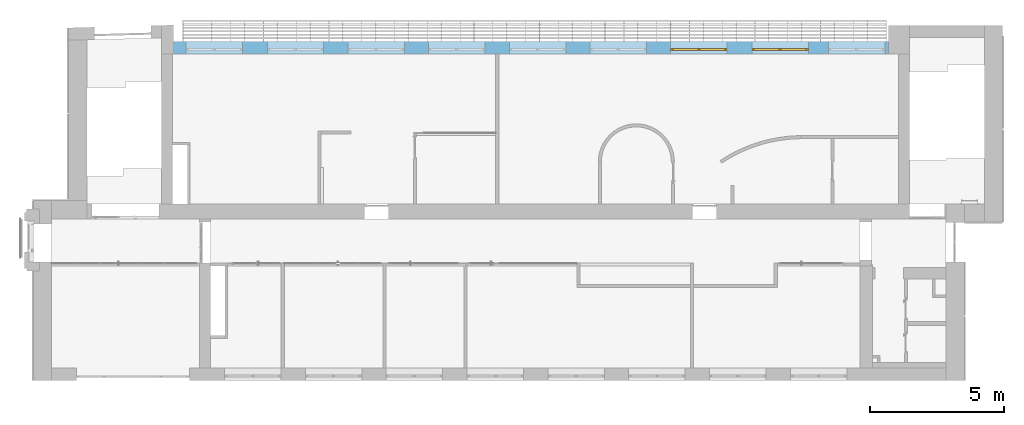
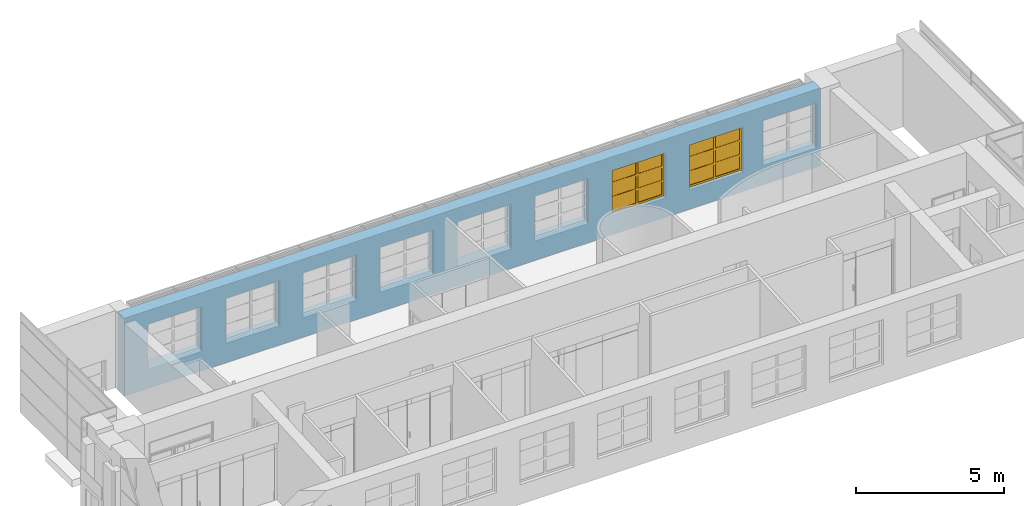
# One storey, part 37 of 46: 2 windows, 9 openings, plus 1 element that does not belong to this part.
"""IFC2X3 building model written with IfcOpenShell, lengths in millimetres."""

from ifc_helpers import new_model, entity, si_unit, converted_unit, derived_unit, direction, frame, frame_2d, origin, origin_2d_with_axis, place, context, subcontext, project, spatial, rectangle, extrude, face_set, surface_model, source, transform, mapped, material, material_list, layer, layer_set, layer_usage, type_object, type_shapes, element, fill, save


model = new_model("IFC2X3")

# Units and contexts
model_context = context("Model", 3, precision=0.01, world=origin(), true_north=direction((6.12303176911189e-17, 1.0)))
body_context = subcontext(model_context, "Body", "Model", "MODEL_VIEW")
ifc_project = project(units=[si_unit("LENGTHUNIT", "METRE", prefix="MILLI"), si_unit("AREAUNIT", "SQUARE_METRE"), si_unit("VOLUMEUNIT", "CUBIC_METRE"), converted_unit("PLANEANGLEUNIT", "DEGREE", entity("IfcRatioMeasure", 0.0174532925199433), si_unit("PLANEANGLEUNIT", "RADIAN"), dimensions=[0, 0, 0, 0, 0, 0, 0]), si_unit("MASSUNIT", "GRAM", prefix="KILO"), derived_unit("MASSDENSITYUNIT", [(si_unit("MASSUNIT", "GRAM", prefix="KILO"), 1), (si_unit("LENGTHUNIT", "METRE"), -3)]), si_unit("TIMEUNIT", "SECOND"), si_unit("FREQUENCYUNIT", "HERTZ"), si_unit("THERMODYNAMICTEMPERATUREUNIT", "DEGREE_CELSIUS"), derived_unit("THERMALTRANSMITTANCEUNIT", [(si_unit("MASSUNIT", "GRAM", prefix="KILO"), 1), (si_unit("THERMODYNAMICTEMPERATUREUNIT", "KELVIN"), -1), (si_unit("TIMEUNIT", "SECOND"), -3)]), derived_unit("VOLUMETRICFLOWRATEUNIT", [(si_unit("LENGTHUNIT", "METRE"), 3), (si_unit("TIMEUNIT", "SECOND"), -1)]), si_unit("ELECTRICCURRENTUNIT", "AMPERE"), si_unit("ELECTRICVOLTAGEUNIT", "VOLT"), si_unit("POWERUNIT", "WATT"), si_unit("FORCEUNIT", "NEWTON", prefix="KILO"), si_unit("ILLUMINANCEUNIT", "LUX"), si_unit("LUMINOUSFLUXUNIT", "LUMEN"), si_unit("LUMINOUSINTENSITYUNIT", "CANDELA"), derived_unit("USERDEFINED", [(si_unit("MASSUNIT", "GRAM", prefix="KILO"), -1), (si_unit("LENGTHUNIT", "METRE"), -2), (si_unit("TIMEUNIT", "SECOND"), 3), (si_unit("LUMINOUSFLUXUNIT", "LUMEN"), 1)]), derived_unit("LINEARVELOCITYUNIT", [(si_unit("LENGTHUNIT", "METRE"), 1), (si_unit("TIMEUNIT", "SECOND"), -1)]), si_unit("PRESSUREUNIT", "PASCAL"), derived_unit("USERDEFINED", [(si_unit("LENGTHUNIT", "METRE"), -2), (si_unit("MASSUNIT", "GRAM", prefix="KILO"), 1), (si_unit("TIMEUNIT", "SECOND"), -2)])], contexts=[model_context])

# Site, building, storey
site_placement = place(None, frame((-151.875543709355, 2715.0, 0.0)))
site = spatial("IfcSite", under=ifc_project, at=site_placement, Name="Surface", CompositionType="ELEMENT")
building_placement = place(site_placement, origin())
building = spatial("IfcBuilding", under=site, at=building_placement, CompositionType="ELEMENT")
storey_placement = place(building_placement, frame((0.0, 0.0, 10060.0)))
storey = spatial("IfcBuildingStorey", under=building, at=storey_placement, Name="4 korrus", CompositionType="ELEMENT", Elevation=10060.0000000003)

# Wall, openings, windows
ifc_material_1 = material(Name="Brick, Common")
ifc_layer_1 = layer(ifc_material_1, 440.0)
ifc_material_2 = material(Name="__Kips GN13_tava")
ifc_layer_2 = layer(ifc_material_2, 20.0)
ifc_layer_set = layer_set([ifc_layer_1, ifc_layer_2], Name="Basic Wall:VS-1")
ifc_layer_usage = layer_usage(ifc_layer_set, "AXIS2", "POSITIVE", -230.0)
wall_type = type_object("IfcWallType", Name="Basic Wall:VS-1", PredefinedType="STANDARD", material=ifc_layer_set)
wall_placement = place(storey_placement, frame((31602.6162682, 12380.0, 0.0), z_axis=(0.0, 0.0, 1.0), x_axis=(-1.0, 0.0, 0.0)))
wall = element("IfcWallStandardCase", 1, at=wall_placement, inside=storey, type_object=wall_type, material=ifc_layer_usage, Name="SEIN - 005", ObjectType="Basic Wall:VS-1", context=body_context, shape_type="SweptSolid", body=[
    extrude(rectangle(XDim=27061.7433388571, YDim=459.999999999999, at=frame_2d((13530.8716694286, 0.0), x_axis=(-1.0, 0.0))), origin(), (0.0, 0.0, 1.0), 3209.74134984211),
])
opening_1_placement = place(wall_placement, frame((31602.6162682, 12380.0, 0.0), z_axis=(0.0, 0.0, 1.0), x_axis=(-1.0, 0.0, 0.0)))
element("IfcOpeningElement", 2, at=opening_1_placement, cuts=wall, Name="SEIN - 005", ObjectType="Opening", context=body_context, shape_type="SweptSolid", body=[
    extrude(rectangle(XDim=1850.0, YDim=2100.0, at=frame_2d((0.0, -5.6843418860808e-13), x_axis=(1.0, 0.0))), frame((6512.84935535, 13077.9, 1725.0), z_axis=(0.0, -1.0, 0.0), x_axis=(0.0, 0.0, 1.0)), (0.0, 0.0, 1.0), 1393.8),
])
opening_2_placement = place(wall_placement, frame((31602.6162682, 12380.0, 0.0), z_axis=(0.0, 0.0, 1.0), x_axis=(-1.0, 0.0, 0.0)))
element("IfcOpeningElement", 3, at=opening_2_placement, cuts=wall, Name="SEIN - 005", ObjectType="Opening", context=body_context, shape_type="SweptSolid", body=[
    extrude(rectangle(XDim=1850.0, YDim=2100.0, at=frame_2d((0.0, -1.02318153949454e-12), x_axis=(1.0, 0.0))), frame((9532.84935535, 13077.9, 1725.0), z_axis=(0.0, -1.0, 0.0), x_axis=(0.0, 0.0, 1.0)), (0.0, 0.0, 1.0), 1393.8),
])
opening_3_placement = place(wall_placement, frame((31602.6162682, 12380.0, 0.0), z_axis=(0.0, 0.0, 1.0), x_axis=(-1.0, 0.0, 0.0)))
element("IfcOpeningElement", 4, at=opening_3_placement, cuts=wall, Name="SEIN - 005", ObjectType="Opening", context=body_context, shape_type="SweptSolid", body=[
    extrude(rectangle(XDim=1850.0, YDim=2100.0, at=origin_2d_with_axis()), frame((12532.84935535, 13077.9, 1725.0), z_axis=(0.0, -1.0, 0.0), x_axis=(0.0, 0.0, 1.0)), (0.0, 0.0, 1.0), 1393.8),
])
opening_4_placement = place(wall_placement, frame((31602.6162682, 12380.0, 0.0), z_axis=(0.0, 0.0, 1.0), x_axis=(-1.0, 0.0, 0.0)))
element("IfcOpeningElement", 5, at=opening_4_placement, cuts=wall, Name="SEIN - 005", ObjectType="Opening", context=body_context, shape_type="SweptSolid", body=[
    extrude(rectangle(XDim=1850.0, YDim=2100.0, at=origin_2d_with_axis()), frame((15532.84935531, 13077.9, 1725.0), z_axis=(0.0, -1.0, 0.0), x_axis=(0.0, 0.0, 1.0)), (0.0, 0.0, 1.0), 1393.8),
])
opening_5_placement = place(wall_placement, frame((31602.6162682, 12380.0, 0.0), z_axis=(0.0, 0.0, 1.0), x_axis=(-1.0, 0.0, 0.0)))
element("IfcOpeningElement", 6, at=opening_5_placement, cuts=wall, Name="SEIN - 005", ObjectType="Opening", context=body_context, shape_type="SweptSolid", body=[
    extrude(rectangle(XDim=1850.0, YDim=2100.0, at=origin_2d_with_axis()), frame((18542.84935531, 13077.9, 1725.0), z_axis=(0.0, -1.0, 0.0), x_axis=(0.0, 0.0, 1.0)), (0.0, 0.0, 1.0), 1393.8),
])
opening_6_placement = place(wall_placement, frame((31602.6162682, 12380.0, 0.0), z_axis=(0.0, 0.0, 1.0), x_axis=(-1.0, 0.0, 0.0)))
element("IfcOpeningElement", 7, at=opening_6_placement, cuts=wall, Name="SEIN - 005", ObjectType="Opening", context=body_context, shape_type="SweptSolid", body=[
    extrude(rectangle(XDim=1850.0, YDim=2100.0, at=origin_2d_with_axis()), frame((21543.05309771, 13077.9, 1725.0), z_axis=(0.0, -1.0, 0.0), x_axis=(0.0, 0.0, 1.0)), (0.0, 0.0, 1.0), 1393.8),
])
opening_7_placement = place(wall_placement, frame((31602.6162682, 12380.0, 0.0), z_axis=(0.0, 0.0, 1.0), x_axis=(-1.0, 0.0, 0.0)))
opening_7 = element("IfcOpeningElement", 8, at=opening_7_placement, cuts=wall, Name="SEIN - 005", ObjectType="Opening", context=body_context, shape_type="SweptSolid", body=[
    extrude(rectangle(XDim=1850.0, YDim=2100.0, at=origin_2d_with_axis()), frame((24543.05309771, 13077.9, 1725.0), z_axis=(0.0, -1.0, 0.0), x_axis=(0.0, 0.0, 1.0)), (0.0, 0.0, 1.0), 1393.8),
])
opening_8_placement = place(wall_placement, frame((31602.6162682, 12380.0, 0.0), z_axis=(0.0, 0.0, 1.0), x_axis=(-1.0, 0.0, 0.0)))
opening_8 = element("IfcOpeningElement", 9, at=opening_8_placement, cuts=wall, Name="SEIN - 005", ObjectType="Opening", context=body_context, shape_type="SweptSolid", body=[
    extrude(rectangle(XDim=1850.0, YDim=2100.0, at=frame_2d((0.0, 4.32009983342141e-12), x_axis=(1.0, 0.0))), frame((27563.05309771, 13077.9, 1725.0), z_axis=(0.0, -1.0, 0.0), x_axis=(0.0, 0.0, 1.0)), (0.0, 0.0, 1.0), 1393.8),
])
opening_9_placement = place(wall_placement, frame((31602.6162682, 12380.0, 0.0), z_axis=(0.0, 0.0, 1.0), x_axis=(-1.0, 0.0, 0.0)))
element("IfcOpeningElement", 10, at=opening_9_placement, cuts=wall, Name="SEIN - 005", ObjectType="Opening", context=body_context, shape_type="SweptSolid", body=[
    extrude(rectangle(XDim=1850.0, YDim=2100.0, at=origin_2d_with_axis()), frame((30412.57293081, 13077.9, 1725.0), z_axis=(0.0, -1.0, 0.0), x_axis=(0.0, 0.0, 1.0)), (0.0, 0.0, 1.0), 1393.8),
])
ifc_material_3 = material(Name="Paint - Titanium White")
ifc_material_4 = material(Name="Paint - Dark Gray")
ifc_material_5 = material(Name="Glass - Clear Fast")
ifc_material_list_1 = material_list([ifc_material_3, ifc_material_4, ifc_material_5])
ifc_material_list_2 = material_list([ifc_material_3, ifc_material_4, ifc_material_5])
window_style = type_object("IfcWindowStyle", Name="Aken_1850x2100", ConstructionType="NOTDEFINED", OperationType="DOUBLE_PANEL_VERTICAL", ParameterTakesPrecedence=False, Sizeable=False, material=ifc_material_list_2)
shared_shape = source(origin(), body_context, "Body", "SurfaceModel", [
    surface_model("IfcFaceBasedSurfaceModel", [(80.0, -665.9, 1770.0), (80.0, -620.9, 1770.0), (0.0, -620.9, 1770.0), (0.0, -665.9, 1770.0), (80.0, -665.9, 80.0), (80.0, -620.9, 80.0), (80.0, -620.9, 1770.0), (80.0, -665.9, 1770.0), (80.0, -620.9, 1770.0), (80.0, -620.9, 80.0), (0.0, -620.9, 80.0), (0.0, -620.9, 1770.0), (0.0, -665.9, 1770.0), (0.0, -620.9, 1770.0), (0.0, -620.9, 80.0), (0.0, -665.9, 80.0), (80.0, -665.9, 1770.0), (0.0, -665.9, 1770.0), (0.0, -665.9, 80.0), (80.0, -665.9, 80.0), (0.0, -665.9, 80.0), (0.0, -620.9, 80.0), (80.0, -620.9, 80.0), (80.0, -665.9, 80.0), (2020.0, -665.9, 80.0), (2020.0, -620.9, 80.0), (2100.0, -620.9, 80.0), (2100.0, -665.9, 80.0), (2020.0, -665.9, 1770.0), (2020.0, -620.9, 1770.0), (2020.0, -620.9, 80.0), (2020.0, -665.9, 80.0), (2020.0, -620.9, 80.0), (2020.0, -620.9, 1770.0), (2100.0, -620.9, 1770.0), (2100.0, -620.9, 80.0), (2100.0, -665.9, 80.0), (2100.0, -620.9, 80.0), (2100.0, -620.9, 1770.0), (2100.0, -665.9, 1770.0), (2020.0, -665.9, 80.0), (2100.0, -665.9, 80.0), (2100.0, -665.9, 1770.0), (2020.0, -665.9, 1770.0), (2100.0, -665.9, 1770.0), (2100.0, -620.9, 1770.0), (2020.0, -620.9, 1770.0), (2020.0, -665.9, 1770.0), (1010.0, -665.9, 80.0), (1010.0, -620.9, 80.0), (1090.0, -620.9, 80.0), (1090.0, -665.9, 80.0), (1010.0, -665.9, 1770.0), (1010.0, -620.9, 1770.0), (1010.0, -620.9, 80.0), (1010.0, -665.9, 80.0), (1010.0, -620.9, 80.0), (1010.0, -620.9, 1770.0), (1090.0, -620.9, 1770.0), (1090.0, -620.9, 80.0), (1090.0, -665.9, 80.0), (1090.0, -620.9, 80.0), (1090.0, -620.9, 1770.0), (1090.0, -665.9, 1770.0), (1010.0, -665.9, 80.0), (1090.0, -665.9, 80.0), (1090.0, -665.9, 1770.0), (1010.0, -665.9, 1770.0), (1090.0, -665.9, 1770.0), (1090.0, -620.9, 1770.0), (1010.0, -620.9, 1770.0), (1010.0, -665.9, 1770.0), (80.0, -665.9, 80.0), (80.0, -620.9, 80.0), (0.0, -620.9, 80.0), (0.0, -665.9, 80.0), (1010.0, -665.9, 80.0), (1010.0, -620.9, 80.0), (80.0, -620.9, 80.0), (80.0, -665.9, 80.0), (80.0, -620.9, 80.0), (1010.0, -620.9, 80.0), (1090.0, -620.9, 80.0), (2020.0, -620.9, 80.0), (2100.0, -620.9, 80.0), (2100.0, -620.9, 0.0), (0.0, -620.9, 0.0), (0.0, -620.9, 80.0), (0.0, -665.9, 80.0), (0.0, -620.9, 80.0), (0.0, -620.9, 0.0), (0.0, -665.9, 0.0), (80.0, -665.9, 80.0), (0.0, -665.9, 80.0), (0.0, -665.9, 0.0), (2100.0, -665.9, 0.0), (2100.0, -665.9, 80.0), (2020.0, -665.9, 80.0), (1090.0, -665.9, 80.0), (1010.0, -665.9, 80.0), (1090.0, -665.9, 80.0), (1090.0, -620.9, 80.0), (1010.0, -620.9, 80.0), (1010.0, -665.9, 80.0), (2020.0, -665.9, 80.0), (2020.0, -620.9, 80.0), (1090.0, -620.9, 80.0), (1090.0, -665.9, 80.0), (2100.0, -665.9, 80.0), (2100.0, -620.9, 80.0), (2020.0, -620.9, 80.0), (2020.0, -665.9, 80.0), (2100.0, -665.9, 0.0), (2100.0, -620.9, 0.0), (2100.0, -620.9, 80.0), (2100.0, -665.9, 80.0), (0.0, -665.9, 0.0), (0.0, -620.9, 0.0), (2100.0, -620.9, 0.0), (2100.0, -665.9, 0.0), (1010.0, -665.9, 1770.0), (1010.0, -620.9, 1770.0), (1090.0, -620.9, 1770.0), (1090.0, -665.9, 1770.0), (80.0, -665.9, 1770.0), (80.0, -620.9, 1770.0), (1010.0, -620.9, 1770.0), (1010.0, -665.9, 1770.0), (1010.0, -620.9, 1770.0), (80.0, -620.9, 1770.0), (0.0, -620.9, 1770.0), (0.0, -620.9, 1850.0), (2100.0, -620.9, 1850.0), (2100.0, -620.9, 1770.0), (2020.0, -620.9, 1770.0), (1090.0, -620.9, 1770.0), (1090.0, -665.9, 1770.0), (1090.0, -620.9, 1770.0), (2020.0, -620.9, 1770.0), (2020.0, -665.9, 1770.0), (1010.0, -665.9, 1770.0), (1090.0, -665.9, 1770.0), (2020.0, -665.9, 1770.0), (2100.0, -665.9, 1770.0), (2100.0, -665.9, 1850.0), (0.0, -665.9, 1850.0), (0.0, -665.9, 1770.0), (80.0, -665.9, 1770.0), (0.0, -665.9, 1770.0), (0.0, -620.9, 1770.0), (80.0, -620.9, 1770.0), (80.0, -665.9, 1770.0), (0.0, -665.9, 1850.0), (0.0, -620.9, 1850.0), (0.0, -620.9, 1770.0), (0.0, -665.9, 1770.0), (2100.0, -665.9, 1850.0), (2100.0, -620.9, 1850.0), (0.0, -620.9, 1850.0), (0.0, -665.9, 1850.0), (2100.0, -665.9, 1770.0), (2100.0, -620.9, 1770.0), (2100.0, -620.9, 1850.0), (2100.0, -665.9, 1850.0), (2020.0, -665.9, 1770.0), (2020.0, -620.9, 1770.0), (2100.0, -620.9, 1770.0), (2100.0, -665.9, 1770.0), (80.0, -640.9, 590.0), (80.0, -630.9, 590.0), (1010.0, -630.9, 590.0), (1010.0, -640.9, 590.0), (80.0, -640.9, 670.0), (80.0, -630.9, 670.0), (80.0, -630.9, 590.0), (80.0, -640.9, 590.0), (80.0, -630.9, 590.0), (80.0, -630.9, 670.0), (1010.0, -630.9, 670.0), (1010.0, -630.9, 590.0), (1010.0, -640.9, 590.0), (1010.0, -630.9, 590.0), (1010.0, -630.9, 670.0), (1010.0, -640.9, 670.0), (80.0, -640.9, 590.0), (1010.0, -640.9, 590.0), (1010.0, -640.9, 670.0), (80.0, -640.9, 670.0), (1010.0, -640.9, 670.0), (1010.0, -630.9, 670.0), (80.0, -630.9, 670.0), (80.0, -640.9, 670.0), (80.0, -640.9, 1180.0), (80.0, -630.9, 1180.0), (1010.0, -630.9, 1180.0), (1010.0, -640.9, 1180.0), (80.0, -640.9, 1260.0), (80.0, -630.9, 1260.0), (80.0, -630.9, 1180.0), (80.0, -640.9, 1180.0), (80.0, -630.9, 1180.0), (80.0, -630.9, 1260.0), (1010.0, -630.9, 1260.0), (1010.0, -630.9, 1180.0), (1010.0, -640.9, 1180.0), (1010.0, -630.9, 1180.0), (1010.0, -630.9, 1260.0), (1010.0, -640.9, 1260.0), (80.0, -640.9, 1180.0), (1010.0, -640.9, 1180.0), (1010.0, -640.9, 1260.0), (80.0, -640.9, 1260.0), (1010.0, -640.9, 1260.0), (1010.0, -630.9, 1260.0), (80.0, -630.9, 1260.0), (80.0, -640.9, 1260.0), (1090.0, -640.9, 590.0), (1090.0, -630.9, 590.0), (2020.0, -630.9, 590.0), (2020.0, -640.9, 590.0), (1090.0, -640.9, 670.0), (1090.0, -630.9, 670.0), (1090.0, -630.9, 590.0), (1090.0, -640.9, 590.0), (1090.0, -630.9, 590.0), (1090.0, -630.9, 670.0), (2020.0, -630.9, 670.0), (2020.0, -630.9, 590.0), (2020.0, -640.9, 590.0), (2020.0, -630.9, 590.0), (2020.0, -630.9, 670.0), (2020.0, -640.9, 670.0), (1090.0, -640.9, 590.0), (2020.0, -640.9, 590.0), (2020.0, -640.9, 670.0), (1090.0, -640.9, 670.0), (2020.0, -640.9, 670.0), (2020.0, -630.9, 670.0), (1090.0, -630.9, 670.0), (1090.0, -640.9, 670.0), (1090.0, -640.9, 1180.0), (1090.0, -630.9, 1180.0), (2020.0, -630.9, 1180.0), (2020.0, -640.9, 1180.0), (1090.0, -640.9, 1260.0), (1090.0, -630.9, 1260.0), (1090.0, -630.9, 1180.0), (1090.0, -640.9, 1180.0), (1090.0, -630.9, 1180.0), (1090.0, -630.9, 1260.0), (2020.0, -630.9, 1260.0), (2020.0, -630.9, 1180.0), (2020.0, -640.9, 1180.0), (2020.0, -630.9, 1180.0), (2020.0, -630.9, 1260.0), (2020.0, -640.9, 1260.0), (1090.0, -640.9, 1180.0), (2020.0, -640.9, 1180.0), (2020.0, -640.9, 1260.0), (1090.0, -640.9, 1260.0), (2020.0, -640.9, 1260.0), (2020.0, -630.9, 1260.0), (1090.0, -630.9, 1260.0), (1090.0, -640.9, 1260.0)], [face_set([[[0, 1, 2, 3]]]), face_set([[[4, 5, 6, 7]]]), face_set([[[8, 9, 10, 11]]]), face_set([[[12, 13, 14, 15]]]), face_set([[[16, 17, 18, 19]]]), face_set([[[20, 21, 22, 23]]]), face_set([[[24, 25, 26, 27]]]), face_set([[[28, 29, 30, 31]]]), face_set([[[32, 33, 34, 35]]]), face_set([[[36, 37, 38, 39]]]), face_set([[[40, 41, 42, 43]]]), face_set([[[44, 45, 46, 47]]]), face_set([[[48, 49, 50, 51]]]), face_set([[[52, 53, 54, 55]]]), face_set([[[56, 57, 58, 59]]]), face_set([[[60, 61, 62, 63]]]), face_set([[[64, 65, 66, 67]]]), face_set([[[68, 69, 70, 71]]]), face_set([[[72, 73, 74, 75]]]), face_set([[[76, 77, 78, 79]]]), face_set([[[80, 81, 82, 83, 84, 85, 86, 87]]]), face_set([[[88, 89, 90, 91]]]), face_set([[[92, 93, 94, 95, 96, 97, 98, 99]]]), face_set([[[100, 101, 102, 103]]]), face_set([[[104, 105, 106, 107]]]), face_set([[[108, 109, 110, 111]]]), face_set([[[112, 113, 114, 115]]]), face_set([[[116, 117, 118, 119]]]), face_set([[[120, 121, 122, 123]]]), face_set([[[124, 125, 126, 127]]]), face_set([[[128, 129, 130, 131, 132, 133, 134, 135]]]), face_set([[[136, 137, 138, 139]]]), face_set([[[140, 141, 142, 143, 144, 145, 146, 147]]]), face_set([[[148, 149, 150, 151]]]), face_set([[[152, 153, 154, 155]]]), face_set([[[156, 157, 158, 159]]]), face_set([[[160, 161, 162, 163]]]), face_set([[[164, 165, 166, 167]]]), face_set([[[168, 169, 170, 171]]]), face_set([[[172, 173, 174, 175]]]), face_set([[[176, 177, 178, 179]]]), face_set([[[180, 181, 182, 183]]]), face_set([[[184, 185, 186, 187]]]), face_set([[[188, 189, 190, 191]]]), face_set([[[192, 193, 194, 195]]]), face_set([[[196, 197, 198, 199]]]), face_set([[[200, 201, 202, 203]]]), face_set([[[204, 205, 206, 207]]]), face_set([[[208, 209, 210, 211]]]), face_set([[[212, 213, 214, 215]]]), face_set([[[216, 217, 218, 219]]]), face_set([[[220, 221, 222, 223]]]), face_set([[[224, 225, 226, 227]]]), face_set([[[228, 229, 230, 231]]]), face_set([[[232, 233, 234, 235]]]), face_set([[[236, 237, 238, 239]]]), face_set([[[240, 241, 242, 243]]]), face_set([[[244, 245, 246, 247]]]), face_set([[[248, 249, 250, 251]]]), face_set([[[252, 253, 254, 255]]]), face_set([[[256, 257, 258, 259]]]), face_set([[[260, 261, 262, 263]]])]),
    surface_model("IfcFaceBasedSurfaceModel", [(80.0, -620.9, 1770.0), (80.0, -595.9, 1770.0), (0.0, -595.9, 1770.0), (0.0, -620.9, 1770.0), (80.0, -620.9, 80.0), (80.0, -595.9, 80.0), (80.0, -595.9, 1770.0), (80.0, -620.9, 1770.0), (80.0, -595.9, 1770.0), (80.0, -595.9, 80.0), (0.0, -595.9, 80.0), (0.0, -595.9, 1770.0), (0.0, -620.9, 1770.0), (0.0, -595.9, 1770.0), (0.0, -595.9, 80.0), (0.0, -620.9, 80.0), (80.0, -620.9, 1770.0), (0.0, -620.9, 1770.0), (0.0, -620.9, 80.0), (80.0, -620.9, 80.0), (0.0, -620.9, 80.0), (0.0, -595.9, 80.0), (80.0, -595.9, 80.0), (80.0, -620.9, 80.0), (2020.0, -620.9, 80.0), (2020.0, -595.9, 80.0), (2100.0, -595.9, 80.0), (2100.0, -620.9, 80.0), (2020.0, -620.9, 1770.0), (2020.0, -595.9, 1770.0), (2020.0, -595.9, 80.0), (2020.0, -620.9, 80.0), (2020.0, -595.9, 80.0), (2020.0, -595.9, 1770.0), (2100.0, -595.9, 1770.0), (2100.0, -595.9, 80.0), (2100.0, -620.9, 80.0), (2100.0, -595.9, 80.0), (2100.0, -595.9, 1770.0), (2100.0, -620.9, 1770.0), (2020.0, -620.9, 80.0), (2100.0, -620.9, 80.0), (2100.0, -620.9, 1770.0), (2020.0, -620.9, 1770.0), (2100.0, -620.9, 1770.0), (2100.0, -595.9, 1770.0), (2020.0, -595.9, 1770.0), (2020.0, -620.9, 1770.0), (1010.0, -620.9, 80.0), (1010.0, -595.9, 80.0), (1090.0, -595.9, 80.0), (1090.0, -620.9, 80.0), (1010.0, -620.9, 1770.0), (1010.0, -595.9, 1770.0), (1010.0, -595.9, 80.0), (1010.0, -620.9, 80.0), (1010.0, -595.9, 80.0), (1010.0, -595.9, 1770.0), (1090.0, -595.9, 1770.0), (1090.0, -595.9, 80.0), (1090.0, -620.9, 80.0), (1090.0, -595.9, 80.0), (1090.0, -595.9, 1770.0), (1090.0, -620.9, 1770.0), (1010.0, -620.9, 80.0), (1090.0, -620.9, 80.0), (1090.0, -620.9, 1770.0), (1010.0, -620.9, 1770.0), (1090.0, -620.9, 1770.0), (1090.0, -595.9, 1770.0), (1010.0, -595.9, 1770.0), (1010.0, -620.9, 1770.0), (80.0, -620.9, 80.0), (80.0, -595.9, 80.0), (0.0, -595.9, 80.0), (0.0, -620.9, 80.0), (1010.0, -620.9, 80.0), (1010.0, -595.9, 80.0), (80.0, -595.9, 80.0), (80.0, -620.9, 80.0), (80.0, -595.9, 80.0), (1010.0, -595.9, 80.0), (1090.0, -595.9, 80.0), (2020.0, -595.9, 80.0), (2100.0, -595.9, 80.0), (2100.0, -595.9, 0.0), (0.0, -595.9, 0.0), (0.0, -595.9, 80.0), (0.0, -620.9, 80.0), (0.0, -595.9, 80.0), (0.0, -595.9, 0.0), (0.0, -620.9, 0.0), (80.0, -620.9, 80.0), (0.0, -620.9, 80.0), (0.0, -620.9, 0.0), (2100.0, -620.9, 0.0), (2100.0, -620.9, 80.0), (2020.0, -620.9, 80.0), (1090.0, -620.9, 80.0), (1010.0, -620.9, 80.0), (1090.0, -620.9, 80.0), (1090.0, -595.9, 80.0), (1010.0, -595.9, 80.0), (1010.0, -620.9, 80.0), (2020.0, -620.9, 80.0), (2020.0, -595.9, 80.0), (1090.0, -595.9, 80.0), (1090.0, -620.9, 80.0), (2100.0, -620.9, 80.0), (2100.0, -595.9, 80.0), (2020.0, -595.9, 80.0), (2020.0, -620.9, 80.0), (2100.0, -620.9, 0.0), (2100.0, -595.9, 0.0), (2100.0, -595.9, 80.0), (2100.0, -620.9, 80.0), (0.0, -620.9, 0.0), (0.0, -595.9, 0.0), (2100.0, -595.9, 0.0), (2100.0, -620.9, 0.0), (1010.0, -620.9, 1770.0), (1010.0, -595.9, 1770.0), (1090.0, -595.9, 1770.0), (1090.0, -620.9, 1770.0), (80.0, -620.9, 1770.0), (80.0, -595.9, 1770.0), (1010.0, -595.9, 1770.0), (1010.0, -620.9, 1770.0), (1010.0, -595.9, 1770.0), (80.0, -595.9, 1770.0), (0.0, -595.9, 1770.0), (0.0, -595.9, 1850.0), (2100.0, -595.9, 1850.0), (2100.0, -595.9, 1770.0), (2020.0, -595.9, 1770.0), (1090.0, -595.9, 1770.0), (1090.0, -620.9, 1770.0), (1090.0, -595.9, 1770.0), (2020.0, -595.9, 1770.0), (2020.0, -620.9, 1770.0), (1010.0, -620.9, 1770.0), (1090.0, -620.9, 1770.0), (2020.0, -620.9, 1770.0), (2100.0, -620.9, 1770.0), (2100.0, -620.9, 1850.0), (0.0, -620.9, 1850.0), (0.0, -620.9, 1770.0), (80.0, -620.9, 1770.0), (0.0, -620.9, 1770.0), (0.0, -595.9, 1770.0), (80.0, -595.9, 1770.0), (80.0, -620.9, 1770.0), (0.0, -620.9, 1850.0), (0.0, -595.9, 1850.0), (0.0, -595.9, 1770.0), (0.0, -620.9, 1770.0), (2100.0, -620.9, 1850.0), (2100.0, -595.9, 1850.0), (0.0, -595.9, 1850.0), (0.0, -620.9, 1850.0), (2100.0, -620.9, 1770.0), (2100.0, -595.9, 1770.0), (2100.0, -595.9, 1850.0), (2100.0, -620.9, 1850.0), (2020.0, -620.9, 1770.0), (2020.0, -595.9, 1770.0), (2100.0, -595.9, 1770.0), (2100.0, -620.9, 1770.0), (80.0, -630.9, 590.0), (80.0, -600.9, 590.0), (1010.0, -600.9, 590.0), (1010.0, -630.9, 590.0), (80.0, -630.9, 670.0), (80.0, -600.9, 670.0), (80.0, -600.9, 590.0), (80.0, -630.9, 590.0), (80.0, -600.9, 590.0), (80.0, -600.9, 670.0), (1010.0, -600.9, 670.0), (1010.0, -600.9, 590.0), (1010.0, -630.9, 590.0), (1010.0, -600.9, 590.0), (1010.0, -600.9, 670.0), (1010.0, -630.9, 670.0), (80.0, -630.9, 590.0), (1010.0, -630.9, 590.0), (1010.0, -630.9, 670.0), (80.0, -630.9, 670.0), (1010.0, -630.9, 670.0), (1010.0, -600.9, 670.0), (80.0, -600.9, 670.0), (80.0, -630.9, 670.0), (80.0, -630.9, 1180.0), (80.0, -600.9, 1180.0), (1010.0, -600.9, 1180.0), (1010.0, -630.9, 1180.0), (80.0, -630.9, 1260.0), (80.0, -600.9, 1260.0), (80.0, -600.9, 1180.0), (80.0, -630.9, 1180.0), (80.0, -600.9, 1180.0), (80.0, -600.9, 1260.0), (1010.0, -600.9, 1260.0), (1010.0, -600.9, 1180.0), (1010.0, -630.9, 1180.0), (1010.0, -600.9, 1180.0), (1010.0, -600.9, 1260.0), (1010.0, -630.9, 1260.0), (80.0, -630.9, 1180.0), (1010.0, -630.9, 1180.0), (1010.0, -630.9, 1260.0), (80.0, -630.9, 1260.0), (1010.0, -630.9, 1260.0), (1010.0, -600.9, 1260.0), (80.0, -600.9, 1260.0), (80.0, -630.9, 1260.0), (1090.0, -630.9, 590.0), (1090.0, -600.9, 590.0), (2020.0, -600.9, 590.0), (2020.0, -630.9, 590.0), (1090.0, -630.9, 670.0), (1090.0, -600.9, 670.0), (1090.0, -600.9, 590.0), (1090.0, -630.9, 590.0), (1090.0, -600.9, 590.0), (1090.0, -600.9, 670.0), (2020.0, -600.9, 670.0), (2020.0, -600.9, 590.0), (2020.0, -630.9, 590.0), (2020.0, -600.9, 590.0), (2020.0, -600.9, 670.0), (2020.0, -630.9, 670.0), (1090.0, -630.9, 590.0), (2020.0, -630.9, 590.0), (2020.0, -630.9, 670.0), (1090.0, -630.9, 670.0), (2020.0, -630.9, 670.0), (2020.0, -600.9, 670.0), (1090.0, -600.9, 670.0), (1090.0, -630.9, 670.0), (1090.0, -630.9, 1180.0), (1090.0, -600.9, 1180.0), (2020.0, -600.9, 1180.0), (2020.0, -630.9, 1180.0), (1090.0, -630.9, 1260.0), (1090.0, -600.9, 1260.0), (1090.0, -600.9, 1180.0), (1090.0, -630.9, 1180.0), (1090.0, -600.9, 1180.0), (1090.0, -600.9, 1260.0), (2020.0, -600.9, 1260.0), (2020.0, -600.9, 1180.0), (2020.0, -630.9, 1180.0), (2020.0, -600.9, 1180.0), (2020.0, -600.9, 1260.0), (2020.0, -630.9, 1260.0), (1090.0, -630.9, 1180.0), (2020.0, -630.9, 1180.0), (2020.0, -630.9, 1260.0), (1090.0, -630.9, 1260.0), (2020.0, -630.9, 1260.0), (2020.0, -600.9, 1260.0), (1090.0, -600.9, 1260.0), (1090.0, -630.9, 1260.0)], [face_set([[[0, 1, 2, 3]]]), face_set([[[4, 5, 6, 7]]]), face_set([[[8, 9, 10, 11]]]), face_set([[[12, 13, 14, 15]]]), face_set([[[16, 17, 18, 19]]]), face_set([[[20, 21, 22, 23]]]), face_set([[[24, 25, 26, 27]]]), face_set([[[28, 29, 30, 31]]]), face_set([[[32, 33, 34, 35]]]), face_set([[[36, 37, 38, 39]]]), face_set([[[40, 41, 42, 43]]]), face_set([[[44, 45, 46, 47]]]), face_set([[[48, 49, 50, 51]]]), face_set([[[52, 53, 54, 55]]]), face_set([[[56, 57, 58, 59]]]), face_set([[[60, 61, 62, 63]]]), face_set([[[64, 65, 66, 67]]]), face_set([[[68, 69, 70, 71]]]), face_set([[[72, 73, 74, 75]]]), face_set([[[76, 77, 78, 79]]]), face_set([[[80, 81, 82, 83, 84, 85, 86, 87]]]), face_set([[[88, 89, 90, 91]]]), face_set([[[92, 93, 94, 95, 96, 97, 98, 99]]]), face_set([[[100, 101, 102, 103]]]), face_set([[[104, 105, 106, 107]]]), face_set([[[108, 109, 110, 111]]]), face_set([[[112, 113, 114, 115]]]), face_set([[[116, 117, 118, 119]]]), face_set([[[120, 121, 122, 123]]]), face_set([[[124, 125, 126, 127]]]), face_set([[[128, 129, 130, 131, 132, 133, 134, 135]]]), face_set([[[136, 137, 138, 139]]]), face_set([[[140, 141, 142, 143, 144, 145, 146, 147]]]), face_set([[[148, 149, 150, 151]]]), face_set([[[152, 153, 154, 155]]]), face_set([[[156, 157, 158, 159]]]), face_set([[[160, 161, 162, 163]]]), face_set([[[164, 165, 166, 167]]]), face_set([[[168, 169, 170, 171]]]), face_set([[[172, 173, 174, 175]]]), face_set([[[176, 177, 178, 179]]]), face_set([[[180, 181, 182, 183]]]), face_set([[[184, 185, 186, 187]]]), face_set([[[188, 189, 190, 191]]]), face_set([[[192, 193, 194, 195]]]), face_set([[[196, 197, 198, 199]]]), face_set([[[200, 201, 202, 203]]]), face_set([[[204, 205, 206, 207]]]), face_set([[[208, 209, 210, 211]]]), face_set([[[212, 213, 214, 215]]]), face_set([[[216, 217, 218, 219]]]), face_set([[[220, 221, 222, 223]]]), face_set([[[224, 225, 226, 227]]]), face_set([[[228, 229, 230, 231]]]), face_set([[[232, 233, 234, 235]]]), face_set([[[236, 237, 238, 239]]]), face_set([[[240, 241, 242, 243]]]), face_set([[[244, 245, 246, 247]]]), face_set([[[248, 249, 250, 251]]]), face_set([[[252, 253, 254, 255]]]), face_set([[[256, 257, 258, 259]]]), face_set([[[260, 261, 262, 263]]])]),
    surface_model("IfcFaceBasedSurfaceModel", [(1010.0, -630.9, 80.0), (1010.0, -630.9, 590.0), (80.0, -630.9, 590.0), (80.0, -630.9, 80.0), (1010.0, -610.9, 80.0), (80.0, -610.9, 80.0), (80.0, -610.9, 590.0), (1010.0, -610.9, 590.0), (1010.0, -630.9, 670.0), (1010.0, -630.9, 1180.0), (80.0, -630.9, 1180.0), (80.0, -630.9, 670.0), (1010.0, -610.9, 670.0), (80.0, -610.9, 670.0), (80.0, -610.9, 1180.0), (1010.0, -610.9, 1180.0), (1010.0, -630.9, 1260.0), (1010.0, -630.9, 1770.0), (80.0, -630.9, 1770.0), (80.0, -630.9, 1260.0), (1010.0, -610.9, 1260.0), (80.0, -610.9, 1260.0), (80.0, -610.9, 1770.0), (1010.0, -610.9, 1770.0), (2020.0, -630.9, 80.0), (2020.0, -630.9, 590.0), (1090.0, -630.9, 590.0), (1090.0, -630.9, 80.0), (2020.0, -610.9, 80.0), (1090.0, -610.9, 80.0), (1090.0, -610.9, 590.0), (2020.0, -610.9, 590.0), (2020.0, -630.9, 670.0), (2020.0, -630.9, 1180.0), (1090.0, -630.9, 1180.0), (1090.0, -630.9, 670.0), (2020.0, -610.9, 670.0), (1090.0, -610.9, 670.0), (1090.0, -610.9, 1180.0), (2020.0, -610.9, 1180.0), (2020.0, -630.9, 1260.0), (2020.0, -630.9, 1770.0), (1090.0, -630.9, 1770.0), (1090.0, -630.9, 1260.0), (2020.0, -610.9, 1260.0), (1090.0, -610.9, 1260.0), (1090.0, -610.9, 1770.0), (2020.0, -610.9, 1770.0)], [face_set([[[0, 1, 2, 3]]]), face_set([[[4, 5, 6, 7]]]), face_set([[[8, 9, 10, 11]]]), face_set([[[12, 13, 14, 15]]]), face_set([[[16, 17, 18, 19]]]), face_set([[[20, 21, 22, 23]]]), face_set([[[24, 25, 26, 27]]]), face_set([[[28, 29, 30, 31]]]), face_set([[[32, 33, 34, 35]]]), face_set([[[36, 37, 38, 39]]]), face_set([[[40, 41, 42, 43]]]), face_set([[[44, 45, 46, 47]]])]),
])
type_shapes(window_style, [shared_shape])
window_1_placement = place(opening_7_placement, frame((25593.05309771, 11684.1, 800.0), z_axis=(0.0, 0.0, 1.0), x_axis=(-1.0, 0.0, 0.0)))
window_1 = element("IfcWindow", 11, at=window_1_placement, inside=storey, type_object=window_style, material=ifc_material_list_1, Name="Aken_1850x2100:Aken_1850x2100", ObjectType="Aken_1850x2100", OverallHeight=2100.0, OverallWidth=1850.0, context=body_context, shape_type="MappedRepresentation", body=[
    mapped(shared_shape, transform((0.0, 0.0, 0.0), scale=1.0)),
])
fill(opening_7, window_1)
ifc_material_list_3 = material_list([ifc_material_3, ifc_material_4, ifc_material_5])
window_2_placement = place(opening_8_placement, frame((28613.05309771, 11684.1, 800.0), z_axis=(0.0, 0.0, 1.0), x_axis=(-1.0, 0.0, 0.0)))
window_2 = element("IfcWindow", 12, at=window_2_placement, inside=storey, type_object=window_style, material=ifc_material_list_3, Name="Aken_1850x2100:Aken_1850x2100", ObjectType="Aken_1850x2100", OverallHeight=2100.0, OverallWidth=1850.0, context=body_context, shape_type="MappedRepresentation", body=[
    mapped(shared_shape, transform((0.0, 0.0, 0.0), scale=1.0)),
])
fill(opening_8, window_2)

save(model, "model.ifc")
